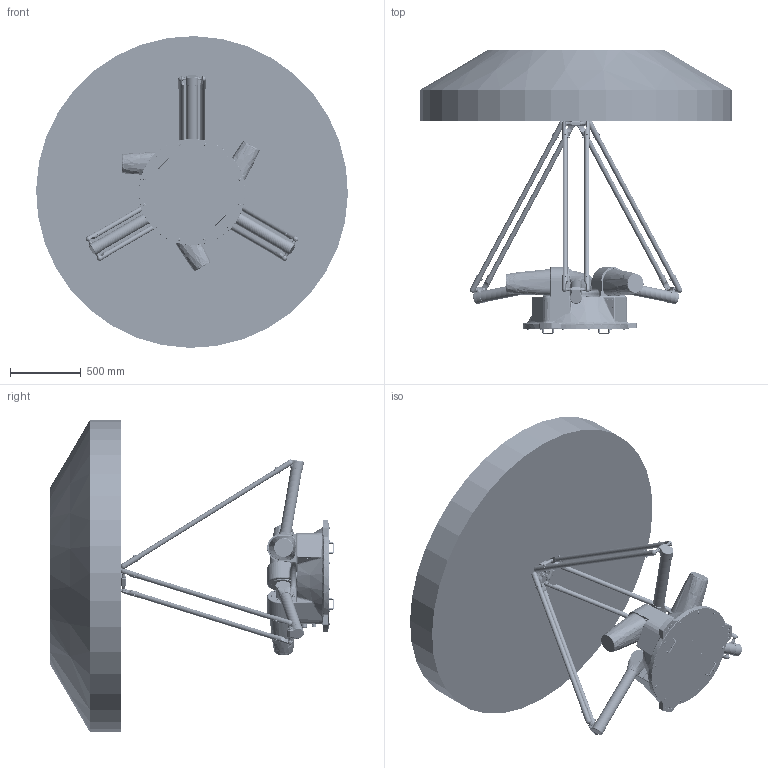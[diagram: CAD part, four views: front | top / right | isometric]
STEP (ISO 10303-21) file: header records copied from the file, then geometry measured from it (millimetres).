
FILE_DESCRIPTION (( 'STEP AP214' ), '1' );
FILE_NAME ('AP25X-2200-1543-T0-V1.0.0.STEP', '2024-06-27T00:57:15', ( '' ), ( '' ), 'SwSTEP 2.0', 'SolidWorks 2017', '' );
FILE_SCHEMA (( 'AUTOMOTIVE_DESIGN' ));
Length unit declared in the file: millimetre
Products named in the file (6): AP25X-2200-1543-T0-V1.0.0; AP25X-2200-1543-T3-V1.0.0; AP25X-2200-1543-T1-V1.0.0; AP25X-2200-1543-T5-V1.0.0; AP25X-2200-1543-T2-V1.0.0; AP25X-2200-1543-T4-V1.0.0
Assembly tree (12 placements, depth 2):
  AP25X-2200-1543-T0-V1.0.0
    AP25X-2200-1543-T1-V1.0.0
    AP25X-2200-1543-T2-V1.0.0  x3
    AP25X-2200-1543-T3-V1.0.0  x6
    AP25X-2200-1543-T4-V1.0.0
    AP25X-2200-1543-T5-V1.0.0
Bounding box: 2199.71 x 2003 x 2199.71 mm (x, y, z)
Volume: 1623607041.4 mm3; surface area: 16108549.7 mm2
Topology: 84 solids, 402 shells, 7307 faces, 17782 edges, 10863 vertices
Faces by surface type: cylinder 2119, plane 1875, cone 1723, bspline 1078, torus 432, sphere 80
Entity records: 336152 total; most frequent: CARTESIAN_POINT 170779, ORIENTED_EDGE 27102, DIRECTION 22327, EDGE_CURVE 13551, AXIS2_PLACEMENT_3D 8594, VERTEX_POINT 8521, EDGE_LOOP 6058, ADVANCED_FACE 5597
